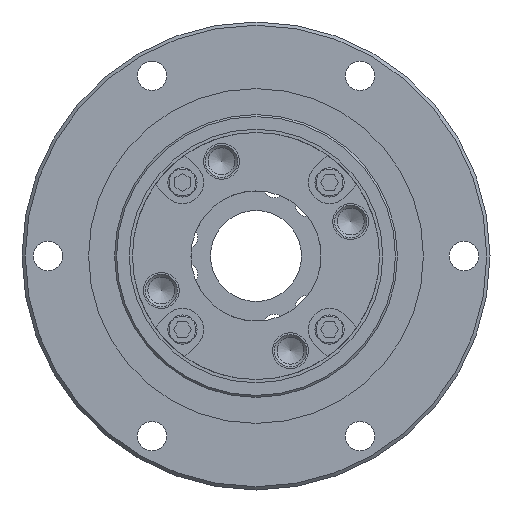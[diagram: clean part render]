
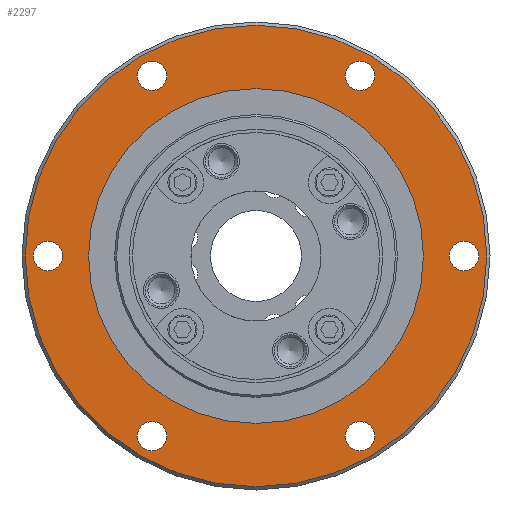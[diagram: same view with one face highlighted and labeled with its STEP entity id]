
A CAD part, left-side view. The second image highlights one B-rep face of the part: STEP entity #2297.
In plain terms, the highlighted planar face has unit normal (-1, 0, 0).
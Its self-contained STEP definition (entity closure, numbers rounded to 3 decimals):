
#90=PLANE('',#2588);
#230=CIRCLE('',#2589,35.5);
#231=CIRCLE('',#2590,2.25);
#232=CIRCLE('',#2591,2.25);
#233=CIRCLE('',#2592,2.25);
#234=CIRCLE('',#2593,2.25);
#235=CIRCLE('',#2594,2.25);
#236=CIRCLE('',#2595,2.25);
#237=CIRCLE('',#2596,25.75);
#508=ORIENTED_EDGE('',*,*,#977,.F.);
#509=ORIENTED_EDGE('',*,*,#978,.T.);
#510=ORIENTED_EDGE('',*,*,#979,.T.);
#511=ORIENTED_EDGE('',*,*,#980,.T.);
#512=ORIENTED_EDGE('',*,*,#981,.T.);
#513=ORIENTED_EDGE('',*,*,#982,.T.);
#514=ORIENTED_EDGE('',*,*,#983,.T.);
#515=ORIENTED_EDGE('',*,*,#984,.T.);
#977=EDGE_CURVE('',#1238,#1238,#230,.T.);
#978=EDGE_CURVE('',#1239,#1239,#231,.T.);
#979=EDGE_CURVE('',#1240,#1240,#232,.T.);
#980=EDGE_CURVE('',#1241,#1241,#233,.T.);
#981=EDGE_CURVE('',#1242,#1242,#234,.T.);
#982=EDGE_CURVE('',#1243,#1243,#235,.T.);
#983=EDGE_CURVE('',#1244,#1244,#236,.T.);
#984=EDGE_CURVE('',#1245,#1245,#237,.T.);
#1238=VERTEX_POINT('',#3887);
#1239=VERTEX_POINT('',#3889);
#1240=VERTEX_POINT('',#3891);
#1241=VERTEX_POINT('',#3893);
#1242=VERTEX_POINT('',#3895);
#1243=VERTEX_POINT('',#3897);
#1244=VERTEX_POINT('',#3899);
#1245=VERTEX_POINT('',#3901);
#1691=EDGE_LOOP('',(#508));
#1692=EDGE_LOOP('',(#509));
#1693=EDGE_LOOP('',(#510));
#1694=EDGE_LOOP('',(#511));
#1695=EDGE_LOOP('',(#512));
#1696=EDGE_LOOP('',(#513));
#1697=EDGE_LOOP('',(#514));
#1698=EDGE_LOOP('',(#515));
#1989=FACE_BOUND('',#1691,.T.);
#1990=FACE_BOUND('',#1692,.T.);
#1991=FACE_BOUND('',#1693,.T.);
#1992=FACE_BOUND('',#1694,.T.);
#1993=FACE_BOUND('',#1695,.T.);
#1994=FACE_BOUND('',#1696,.T.);
#1995=FACE_BOUND('',#1697,.T.);
#1996=FACE_BOUND('',#1698,.T.);
#2297=ADVANCED_FACE('',(#1989,#1990,#1991,#1992,#1993,#1994,#1995,#1996),
#90,.F.);
#2588=AXIS2_PLACEMENT_3D('',#3885,#3103,#3104);
#2589=AXIS2_PLACEMENT_3D('',#3886,#3105,#3106);
#2590=AXIS2_PLACEMENT_3D('',#3888,#3107,#3108);
#2591=AXIS2_PLACEMENT_3D('',#3890,#3109,#3110);
#2592=AXIS2_PLACEMENT_3D('',#3892,#3111,#3112);
#2593=AXIS2_PLACEMENT_3D('',#3894,#3113,#3114);
#2594=AXIS2_PLACEMENT_3D('',#3896,#3115,#3116);
#2595=AXIS2_PLACEMENT_3D('',#3898,#3117,#3118);
#2596=AXIS2_PLACEMENT_3D('',#3900,#3119,#3120);
#3103=DIRECTION('',(1.,0.,0.));
#3104=DIRECTION('',(0.,0.,-1.));
#3105=DIRECTION('',(1.,0.,0.));
#3106=DIRECTION('',(0.,0.,-1.));
#3107=DIRECTION('',(1.,0.,0.));
#3108=DIRECTION('',(0.,0.,-1.));
#3109=DIRECTION('',(1.,0.,0.));
#3110=DIRECTION('',(0.,0.,-1.));
#3111=DIRECTION('',(1.,0.,0.));
#3112=DIRECTION('',(0.,0.,-1.));
#3113=DIRECTION('',(1.,0.,0.));
#3114=DIRECTION('',(0.,0.,-1.));
#3115=DIRECTION('',(1.,0.,0.));
#3116=DIRECTION('',(0.,0.,-1.));
#3117=DIRECTION('',(1.,0.,0.));
#3118=DIRECTION('',(0.,0.,-1.));
#3119=DIRECTION('',(1.,0.,0.));
#3120=DIRECTION('',(0.,0.,-1.));
#3885=CARTESIAN_POINT('',(11.,21.75,0.));
#3886=CARTESIAN_POINT('',(11.,0.,0.));
#3887=CARTESIAN_POINT('',(11.,0.,-35.5));
#3888=CARTESIAN_POINT('',(11.,32.,0.));
#3889=CARTESIAN_POINT('',(11.,32.,-2.25));
#3890=CARTESIAN_POINT('',(11.,16.,27.713));
#3891=CARTESIAN_POINT('',(11.,16.,25.463));
#3892=CARTESIAN_POINT('',(11.,-16.,27.713));
#3893=CARTESIAN_POINT('',(11.,-16.,25.463));
#3894=CARTESIAN_POINT('',(11.,-32.,0.));
#3895=CARTESIAN_POINT('',(11.,-32.,-2.25));
#3896=CARTESIAN_POINT('',(11.,-16.,-27.713));
#3897=CARTESIAN_POINT('',(11.,-16.,-29.963));
#3898=CARTESIAN_POINT('',(11.,16.,-27.713));
#3899=CARTESIAN_POINT('',(11.,16.,-29.963));
#3900=CARTESIAN_POINT('',(11.,0.,0.));
#3901=CARTESIAN_POINT('',(11.,0.,-25.75));
